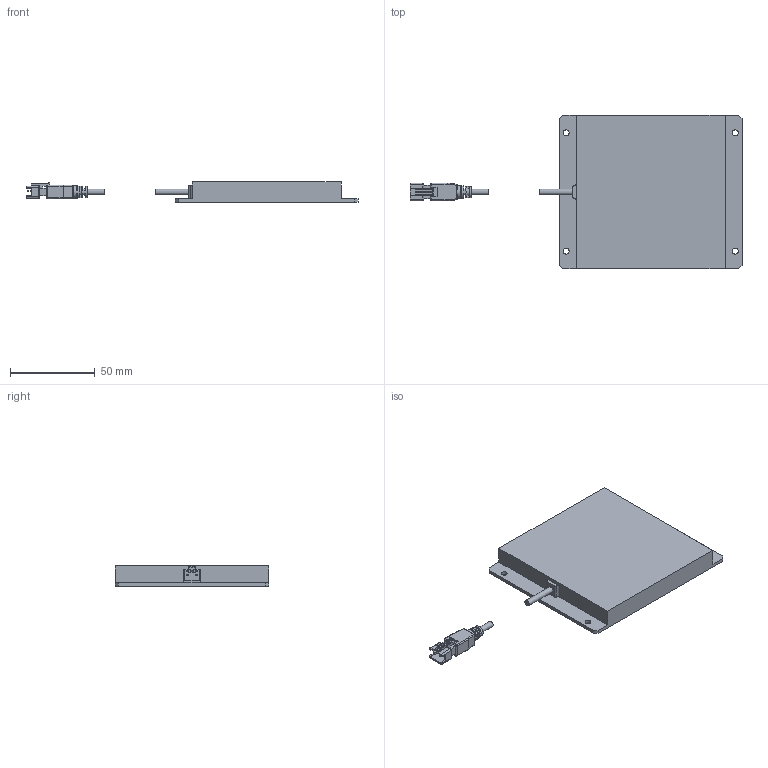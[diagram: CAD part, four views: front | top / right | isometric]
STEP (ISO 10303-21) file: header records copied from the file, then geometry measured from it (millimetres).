
FILE_DESCRIPTION(('STEP AP214'),'1');
FILE_NAME('LVB-G8080.stp','2025-12-01T01:19:33',(' '),(' '),'Spatial InterOp 3D',' ',' ');
FILE_SCHEMA(('AUTOMOTIVE_DESIGN { 1 0 10303 214 1 1 1 1 }'));
Length unit declared in the file: metre
Products named in the file (3): LVB-G8080; Component1; Component2
Assembly tree (2 placements, depth 2):
  LVB-G8080
    Component1
    Component2
Bounding box: 196.3 x 91 x 12 mm (x, y, z)
Volume: 102054.8 mm3; surface area: 26115.9 mm2
Topology: 2 solids, 2 shells, 180 faces, 472 edges, 301 vertices
Faces by surface type: plane 125, cylinder 42, bspline 4, sphere 4, torus 4, cone 1
Full cylindrical faces by diameter (mm): 3.5 x6
Entity records: 9303 total; most frequent: CARTESIAN_POINT 1442, ORIENTED_EDGE 912, DIRECTION 881, STYLED_ITEM 574, PRESENTATION_STYLE_ASSIGNMENT 574, COLOUR_RGB 574, EDGE_CURVE 456, CURVE_STYLE 392
